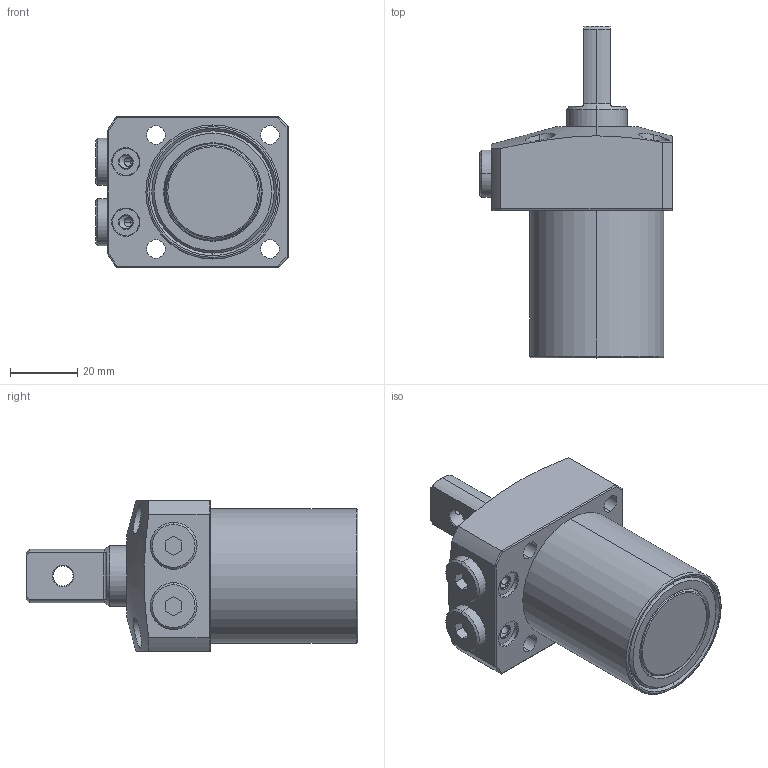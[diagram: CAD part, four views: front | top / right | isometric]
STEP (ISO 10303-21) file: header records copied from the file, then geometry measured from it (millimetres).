
FILE_DESCRIPTION (( 'STEP AP203' ), '1' );
FILE_NAME ('20300-CR-P.step', '2019-06-24T03:09:16', ( '微软用户' ), ( '微软中国' ), 'SwSTEP 2.0', 'SolidWorks 2014', '' );
FILE_SCHEMA (( 'CONFIG_CONTROL_DESIGN' ));
Length unit declared in the file: millimetre
Products named in the file (5): 20300-C-P-1^20300-CR-P; 20300-C-P-2^20300-CR-P; 20300-C-P-3^20300-CR-P; 20300-C-P-4^20300-CR-P; 20300-CR-P
Assembly tree (5 placements, depth 2):
  20300-CR-P
    20300-C-P-1^20300-CR-P
    20300-C-P-2^20300-CR-P
    20300-C-P-3^20300-CR-P
    20300-C-P-4^20300-CR-P  x2
Bounding box: 57.5 x 99 x 45 mm (x, y, z)
Volume: 114191.7 mm3; surface area: 22900.6 mm2
Topology: 5 solids, 5 shells, 169 faces, 393 edges, 247 vertices
Faces by surface type: cylinder 67, plane 51, cone 39, torus 12
Entity records: 5609 total; most frequent: CARTESIAN_POINT 1440, DIRECTION 798, ORIENTED_EDGE 730, EDGE_CURVE 365, AXIS2_PLACEMENT_3D 331, VERTEX_POINT 229, EDGE_LOOP 184, CIRCLE 167
